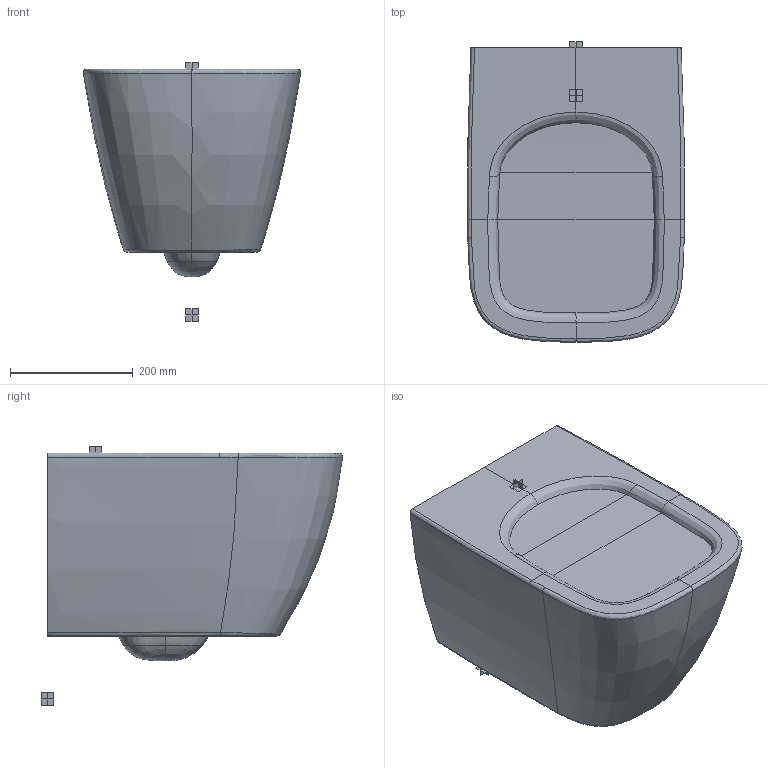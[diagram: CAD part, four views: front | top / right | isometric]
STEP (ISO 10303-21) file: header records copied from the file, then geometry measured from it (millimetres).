
FILE_DESCRIPTION((''),'2;1');
FILE_NAME('T4592_MK1_3DPL','2022-03-14T16:10:19',('HristovG'),('IDEAL STANDARD BVBA'),'CREO PARAMETRIC BY PTC INC, 2020281','CREO PARAMETRIC BY PTC INC, 2020281','');
FILE_SCHEMA(('AP242_MANAGED_MODEL_BASED_3D_ENGINEERING_MIM_LF { 1 0 10303 442 1 1 4 }'));
Length unit declared in the file: millimetre
Products named in the file (1): T4592_MK1_3DPL
Bounding box: 353 x 489.72 x 420 mm (x, y, z)
Volume: 36299305.8 mm3; surface area: 746827.7 mm2
Topology: 1 solids, 9 shells, 63 faces, 168 edges, 123 vertices
Faces by surface type: bspline 34, plane 16, cone 5, cylinder 4, extrusion 2, torus 2
Entity records: 8620 total; most frequent: CARTESIAN_POINT 6817, ORIENTED_EDGE 286, DIRECTION 197, EDGE_CURVE 166, VERTEX_POINT 118, B_SPLINE_CURVE_WITH_KNOTS 78, AXIS2_PLACEMENT_3D 73, EDGE_LOOP 70
